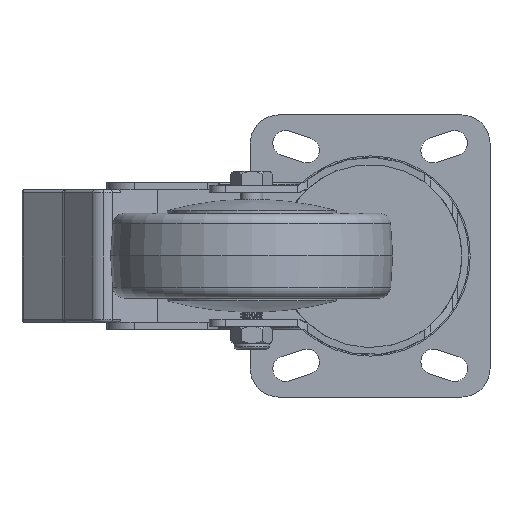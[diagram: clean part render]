
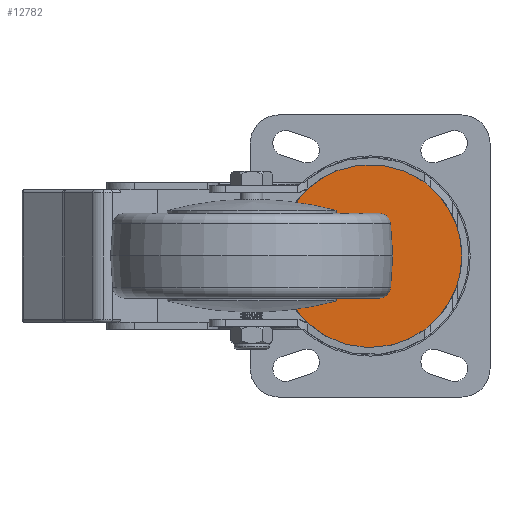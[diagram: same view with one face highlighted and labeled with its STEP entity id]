
A CAD part, front view. The second image highlights one B-rep face of the part: STEP entity #12782.
In plain terms, the highlighted planar face has unit normal (0, -1, 0) as drawn and (0, 1, 0) by its records, which use the part's own axes.
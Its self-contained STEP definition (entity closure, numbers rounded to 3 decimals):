
#3981 = PLANE ( 'NONE',  #15739 ) ;
#4238 = ORIENTED_EDGE ( 'NONE', *, *, #27253, .T. ) ;
#4917 = CARTESIAN_POINT ( 'NONE',  ( 0., 7., 6. ) ) ;
#4943 = DIRECTION ( 'NONE',  ( 0., 0., -1. ) ) ;
#9265 = CARTESIAN_POINT ( 'NONE',  ( 0., 7., 32.5 ) ) ;
#10286 = EDGE_CURVE ( 'NONE', #10456, #44839, #54295, .T. ) ;
#10456 = VERTEX_POINT ( 'NONE', #46481 ) ;
#11900 = ORIENTED_EDGE ( 'NONE', *, *, #10286, .T. ) ;
#11995 = CARTESIAN_POINT ( 'NONE',  ( 0., 7., -32.5 ) ) ;
#12782 = ADVANCED_FACE ( 'NONE', ( #54835, #22068 ), #3981, .F. ) ;
#12858 = AXIS2_PLACEMENT_3D ( 'NONE', #27855, #32372, #4943 ) ;
#15307 = CIRCLE ( 'NONE', #48934, 32.5 ) ;
#15739 = AXIS2_PLACEMENT_3D ( 'NONE', #40419, #35899, #22359 ) ;
#16100 = CARTESIAN_POINT ( 'NONE',  ( 0., 7., 0. ) ) ;
#18320 = DIRECTION ( 'NONE',  ( 0., 0., -1. ) ) ;
#22068 = FACE_OUTER_BOUND ( 'NONE', #34293, .T. ) ;
#22359 = DIRECTION ( 'NONE',  ( 0., 0., -1. ) ) ;
#22379 = ORIENTED_EDGE ( 'NONE', *, *, #52293, .F. ) ;
#23954 = EDGE_CURVE ( 'NONE', #42164, #54597, #41796, .T. ) ;
#27253 = EDGE_CURVE ( 'NONE', #44839, #10456, #52554, .T. ) ;
#27855 = CARTESIAN_POINT ( 'NONE',  ( 0., 7., 0. ) ) ;
#32323 = DIRECTION ( 'NONE',  ( 0., -1., 0. ) ) ;
#32372 = DIRECTION ( 'NONE',  ( 0., -1., 0. ) ) ;
#33310 = DIRECTION ( 'NONE',  ( 0., -1., 0. ) ) ;
#34271 = EDGE_LOOP ( 'NONE', ( #11900, #4238 ) ) ;
#34293 = EDGE_LOOP ( 'NONE', ( #22379, #46286 ) ) ;
#35899 = DIRECTION ( 'NONE',  ( 0., -1., 0. ) ) ;
#36082 = DIRECTION ( 'NONE',  ( 0., -1., 0. ) ) ;
#40419 = CARTESIAN_POINT ( 'NONE',  ( 0., 7., 0. ) ) ;
#41796 = CIRCLE ( 'NONE', #49513, 32.5 ) ;
#42164 = VERTEX_POINT ( 'NONE', #9265 ) ;
#44839 = VERTEX_POINT ( 'NONE', #4917 ) ;
#44868 = AXIS2_PLACEMENT_3D ( 'NONE', #55844, #33310, #51645 ) ;
#46286 = ORIENTED_EDGE ( 'NONE', *, *, #23954, .F. ) ;
#46481 = CARTESIAN_POINT ( 'NONE',  ( 0., 7., -6. ) ) ;
#48934 = AXIS2_PLACEMENT_3D ( 'NONE', #58948, #36082, #18320 ) ;
#49513 = AXIS2_PLACEMENT_3D ( 'NONE', #16100, #32323, #50652 ) ;
#50652 = DIRECTION ( 'NONE',  ( 0., 0., -1. ) ) ;
#51645 = DIRECTION ( 'NONE',  ( 0., 0., -1. ) ) ;
#52293 = EDGE_CURVE ( 'NONE', #54597, #42164, #15307, .T. ) ;
#52554 = CIRCLE ( 'NONE', #44868, 6. ) ;
#54295 = CIRCLE ( 'NONE', #12858, 6. ) ;
#54597 = VERTEX_POINT ( 'NONE', #11995 ) ;
#54835 = FACE_BOUND ( 'NONE', #34271, .T. ) ;
#55844 = CARTESIAN_POINT ( 'NONE',  ( 0., 7., 0. ) ) ;
#58948 = CARTESIAN_POINT ( 'NONE',  ( 0., 7., 0. ) ) ;
